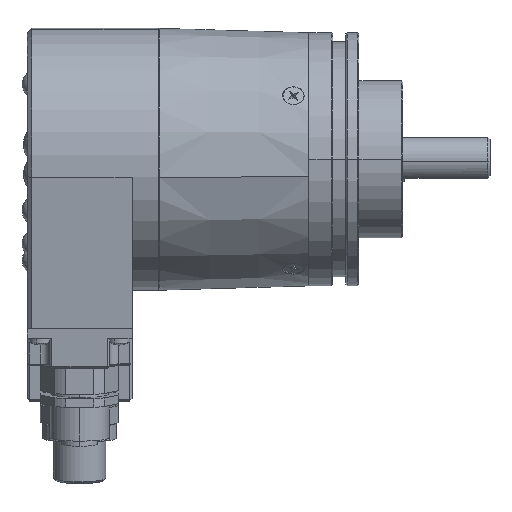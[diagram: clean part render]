
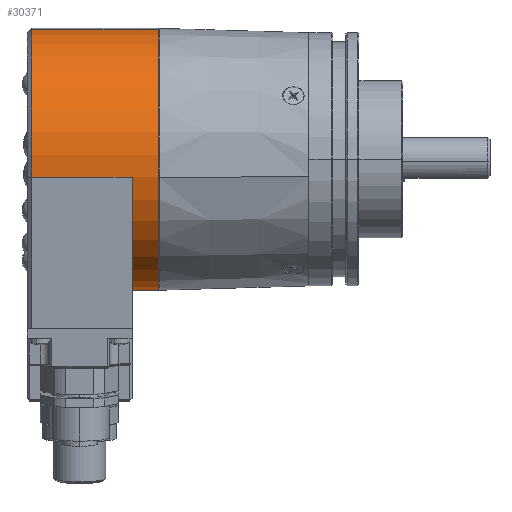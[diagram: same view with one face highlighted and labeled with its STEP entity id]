
A CAD part, top view. The second image highlights one B-rep face of the part: STEP entity #30371.
In plain terms, the highlighted cylindrical face has radius 30 mm (diameter 60 mm), a partial arc.
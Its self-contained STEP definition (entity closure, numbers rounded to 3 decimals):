
#13299 = CARTESIAN_POINT ( 'NONE',  ( -39.47, -29.517, -4.175 ) ) ;
#13300 = DIRECTION ( 'NONE',  ( -1., 0., 0. ) ) ;
#13301 = VECTOR ( 'NONE', #13300, 1000. ) ;
#13302 = CARTESIAN_POINT ( 'NONE',  ( -33.47, -29.517, -4.175 ) ) ;
#13303 = LINE ( 'NONE', #13302, #13301 ) ;
#13340 = CARTESIAN_POINT ( 'NONE',  ( -62.47, 29.899, 4.175 ) ) ;
#13514 = DIRECTION ( 'NONE',  ( -1., 0., 0. ) ) ;
#13515 = VECTOR ( 'NONE', #13514, 1000. ) ;
#13516 = CARTESIAN_POINT ( 'NONE',  ( -33.47, 29.899, 4.175 ) ) ;
#13517 = LINE ( 'NONE', #13516, #13515 ) ;
#13565 = CARTESIAN_POINT ( 'NONE',  ( -33.47, 29.899, 4.175 ) ) ;
#13566 = CARTESIAN_POINT ( 'NONE',  ( -33.47, -29.517, -4.175 ) ) ;
#15373 = FACE_OUTER_BOUND ( 'NONE', #30372, .T. ) ;
#15404 = DIRECTION ( 'NONE',  ( 0., -0.99, -0.139 ) ) ;
#15405 = DIRECTION ( 'NONE',  ( 1., 0., 0. ) ) ;
#15406 = CARTESIAN_POINT ( 'NONE',  ( -62.47, 0.191, 0. ) ) ;
#15407 = AXIS2_PLACEMENT_3D ( 'NONE', #15406, #15405, #15404 ) ;
#15408 = CIRCLE ( 'NONE', #15407, 30. ) ;
#15409 = DIRECTION ( 'NONE',  ( 0., -0.99, -0.139 ) ) ;
#15410 = DIRECTION ( 'NONE',  ( 1., 0., 0. ) ) ;
#15411 = CARTESIAN_POINT ( 'NONE',  ( -33.47, 0.191, 0. ) ) ;
#15412 = AXIS2_PLACEMENT_3D ( 'NONE', #15411, #15410, #15409 ) ;
#15413 = DIRECTION ( 'NONE',  ( 0., 0.99, 0.139 ) ) ;
#15415 = DIRECTION ( 'NONE',  ( -1., 0., 0. ) ) ;
#15416 = AXIS2_PLACEMENT_3D ( 'NONE', #15419, #15415, #15413 ) ;
#15417 = CYLINDRICAL_SURFACE ( 'NONE', #15416, 30. ) ;
#15418 = CIRCLE ( 'NONE', #15412, 30. ) ;
#15419 = CARTESIAN_POINT ( 'NONE',  ( -33.47, 0.191, 0. ) ) ;
#15543 = DIRECTION ( 'NONE',  ( 0., 0.139, -0.99 ) ) ;
#15544 = DIRECTION ( 'NONE',  ( -1., 0., 0. ) ) ;
#15545 = CARTESIAN_POINT ( 'NONE',  ( -39.47, 0.191, 0. ) ) ;
#15546 = AXIS2_PLACEMENT_3D ( 'NONE', #15545, #15544, #15543 ) ;
#15547 = CIRCLE ( 'NONE', #15546, 30. ) ;
#15548 = CARTESIAN_POINT ( 'NONE',  ( -39.47, -3.984, 29.708 ) ) ;
#15549 = DIRECTION ( 'NONE',  ( -1., 0., 0. ) ) ;
#15550 = VECTOR ( 'NONE', #15549, 1000. ) ;
#15551 = CARTESIAN_POINT ( 'NONE',  ( -39.47, -3.984, 29.708 ) ) ;
#15556 = LINE ( 'NONE', #15551, #15550 ) ;
#15558 = CARTESIAN_POINT ( 'NONE',  ( -62.47, -3.984, 29.708 ) ) ;
#29258 = EDGE_CURVE ( 'NONE', #29388, #29259, #13303, .T. ) ;
#29259 = VERTEX_POINT ( 'NONE', #13299 ) ;
#29271 = VERTEX_POINT ( 'NONE', #13340 ) ;
#29361 = EDGE_CURVE ( 'NONE', #29389, #29271, #13517, .T. ) ;
#29388 = VERTEX_POINT ( 'NONE', #13566 ) ;
#29389 = VERTEX_POINT ( 'NONE', #13565 ) ;
#30371 = ADVANCED_FACE ( 'NONE', ( #15373 ), #15417, .T. ) ;
#30372 = EDGE_LOOP ( 'NONE', ( #30374, #30375, #30377, #30378, #30452, #30461 ) ) ;
#30374 = ORIENTED_EDGE ( 'NONE', *, *, #29258, .F. ) ;
#30375 = ORIENTED_EDGE ( 'NONE', *, *, #30376, .F. ) ;
#30376 = EDGE_CURVE ( 'NONE', #29389, #29388, #15418, .T. ) ;
#30377 = ORIENTED_EDGE ( 'NONE', *, *, #29361, .T. ) ;
#30378 = ORIENTED_EDGE ( 'NONE', *, *, #30379, .T. ) ;
#30379 = EDGE_CURVE ( 'NONE', #29271, #30450, #15408, .T. ) ;
#30450 = VERTEX_POINT ( 'NONE', #15558 ) ;
#30452 = ORIENTED_EDGE ( 'NONE', *, *, #30456, .F. ) ;
#30456 = EDGE_CURVE ( 'NONE', #30459, #30450, #15556, .T. ) ;
#30459 = VERTEX_POINT ( 'NONE', #15548 ) ;
#30461 = ORIENTED_EDGE ( 'NONE', *, *, #30464, .F. ) ;
#30464 = EDGE_CURVE ( 'NONE', #29259, #30459, #15547, .T. ) ;
